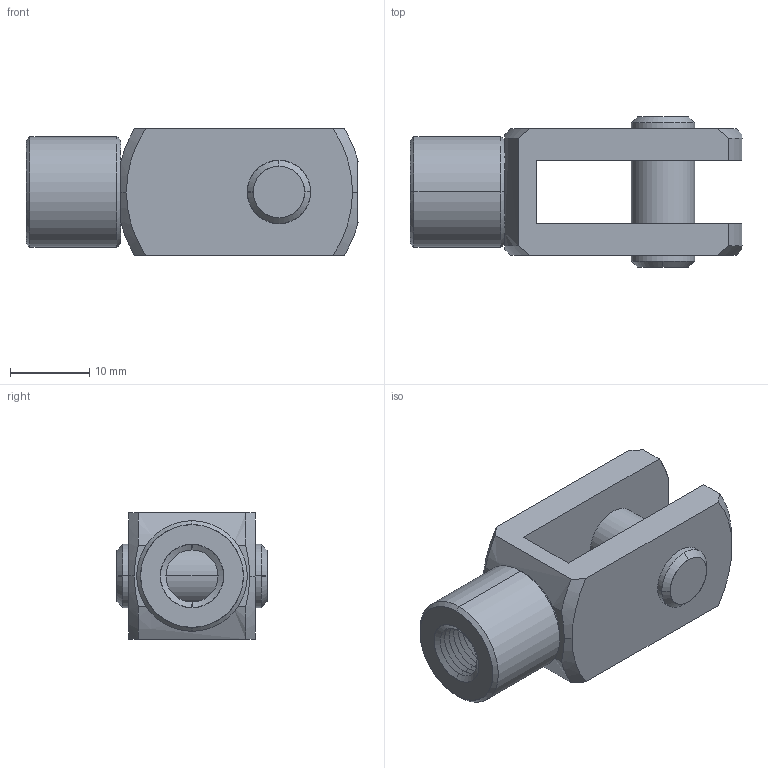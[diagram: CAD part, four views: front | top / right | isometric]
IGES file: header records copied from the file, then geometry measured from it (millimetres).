
Start section: SolidWorks IGES file using analytic representation for surfaces
Bounding box: 42 x 19 x 16 mm (x, y, z)
Surface area: 3785.4 mm2 (no closed solid volume)
Topology: 0 solids, 0 shells, 68 faces, 662 edges, 662 vertices
Faces by surface type: revolution 52, bspline 16
